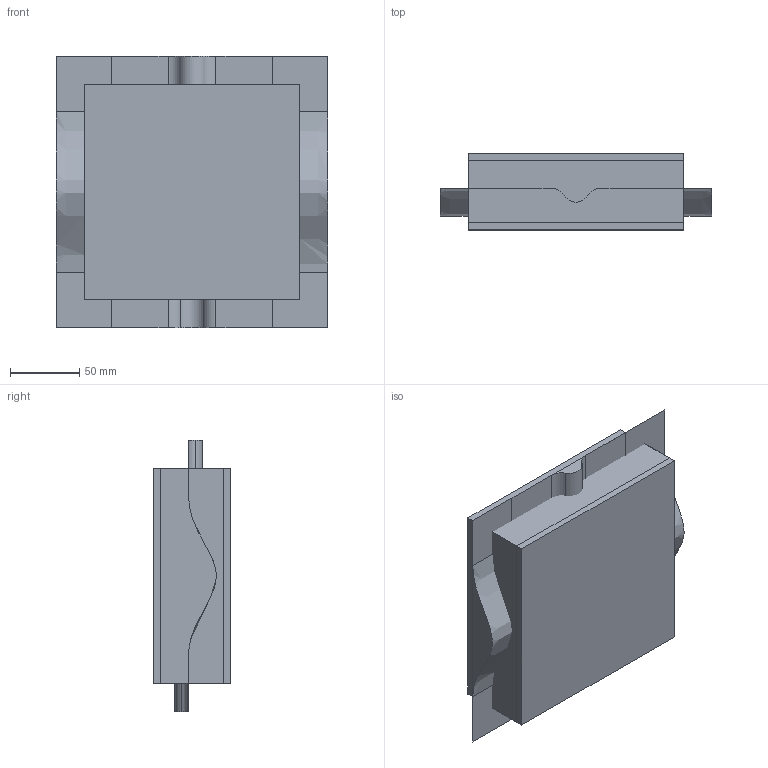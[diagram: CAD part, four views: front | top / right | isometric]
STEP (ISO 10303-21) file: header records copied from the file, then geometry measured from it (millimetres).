
FILE_DESCRIPTION(('CATIA V5 STEP Exchange'),'2;1');
FILE_NAME('C:\_Andres\UNIVERSIDAD\IQS\ASIGNATURAS\DAO\EXF\EXF-16172c\2inicio\Icart_Martori_Ej02_v16.stp','2017-03-05T15:45:26+00:00',('none'),('none'),'CATIA Version 5-6 Release 2014 SP1 HF18','CATIA V5 STEP AP203','none');
FILE_SCHEMA(('CONFIG_CONTROL_DESIGN'));
Length unit declared in the file: millimetre
Products named in the file (1): Icart_Martori_Ej02_v16
Bounding box: 196 x 55 x 196 mm (x, y, z)
Surface area: 246806.3 mm2
Topology: 3 solids, 10 shells, 72 faces, 205 edges, 150 vertices
Faces by surface type: bspline 32, plane 32, cylinder 6, extrusion 2
Entity records: 6164 total; most frequent: CARTESIAN_POINT 4847, ORIENTED_EDGE 288, DIRECTION 151, EDGE_CURVE 132, VERTEX_POINT 84, VECTOR 77, LINE 75, ADVANCED_FACE 72
